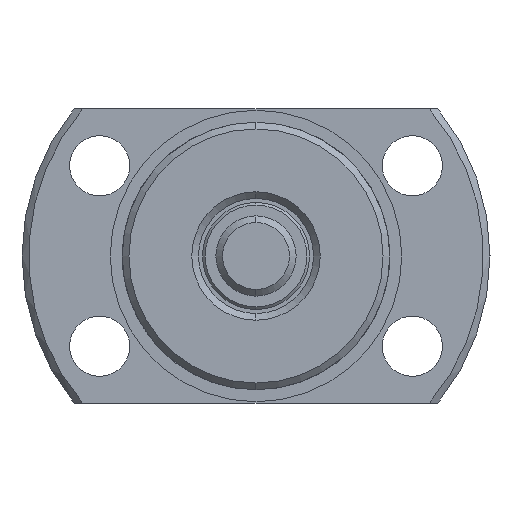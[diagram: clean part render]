
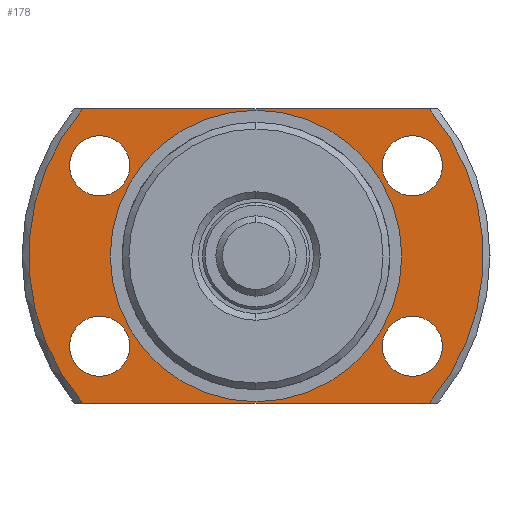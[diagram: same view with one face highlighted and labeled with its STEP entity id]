
A CAD part, left-side view. The second image highlights one B-rep face of the part: STEP entity #178.
In plain terms, the highlighted planar face has unit normal (-1, 0, 0).
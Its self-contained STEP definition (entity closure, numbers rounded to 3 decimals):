
#11 = CIRCLE ( 'NONE', #3561, 17. ) ;
#94 = DIRECTION ( 'NONE',  ( 0., 0., -1. ) ) ;
#95 = DIRECTION ( 'NONE',  ( 1., 0., 0. ) ) ;
#96 = CARTESIAN_POINT ( 'NONE',  ( -5., 0., 0. ) ) ;
#178 = ADVANCED_FACE ( 'NONE', ( #4141, #4142, #4154, #4152, #4139, #4143 ), #1214, .T. ) ;
#449 = EDGE_CURVE ( 'NONE', #2120, #2138, #1024, .T. ) ;
#450 = EDGE_CURVE ( 'NONE', #2110, #2111, #1023, .T. ) ;
#451 = EDGE_CURVE ( 'NONE', #2056, #2054, #1022, .T. ) ;
#452 = EDGE_CURVE ( 'NONE', #2062, #2061, #1021, .T. ) ;
#453 = EDGE_CURVE ( 'NONE', #2114, #2115, #1018, .T. ) ;
#454 = EDGE_CURVE ( 'NONE', #2106, #2107, #1020, .T. ) ;
#455 = EDGE_CURVE ( 'NONE', #2118, #2119, #1016, .T. ) ;
#458 = EDGE_CURVE ( 'NONE', #2056, #2061, #1014, .T. ) ;
#499 = AXIS2_PLACEMENT_3D ( 'NONE', #1212, #1217, #1211 ) ;
#593 = DIRECTION ( 'NONE',  ( 0., 0., 1. ) ) ;
#594 = DIRECTION ( 'NONE',  ( -1., 0., 0. ) ) ;
#595 = CARTESIAN_POINT ( 'NONE',  ( -5., 11.691, 6.75 ) ) ;
#603 = DIRECTION ( 'NONE',  ( 0., 0., 1. ) ) ;
#604 = DIRECTION ( 'NONE',  ( -1., 0., 0. ) ) ;
#605 = CARTESIAN_POINT ( 'NONE',  ( -5., -11.691, 6.75 ) ) ;
#613 = DIRECTION ( 'NONE',  ( 0., 0., 1. ) ) ;
#614 = DIRECTION ( 'NONE',  ( -1., 0., 0. ) ) ;
#615 = CARTESIAN_POINT ( 'NONE',  ( -5., -11.691, -6.75 ) ) ;
#879 = ORIENTED_EDGE ( 'NONE', *, *, #449, .F. ) ;
#880 = ORIENTED_EDGE ( 'NONE', *, *, #3676, .F. ) ;
#881 = ORIENTED_EDGE ( 'NONE', *, *, #450, .F. ) ;
#882 = ORIENTED_EDGE ( 'NONE', *, *, #3688, .F. ) ;
#883 = ORIENTED_EDGE ( 'NONE', *, *, #3764, .F. ) ;
#884 = ORIENTED_EDGE ( 'NONE', *, *, #451, .T. ) ;
#885 = ORIENTED_EDGE ( 'NONE', *, *, #458, .F. ) ;
#886 = ORIENTED_EDGE ( 'NONE', *, *, #452, .T. ) ;
#887 = ORIENTED_EDGE ( 'NONE', *, *, #453, .F. ) ;
#888 = ORIENTED_EDGE ( 'NONE', *, *, #3684, .F. ) ;
#889 = ORIENTED_EDGE ( 'NONE', *, *, #3692, .T. ) ;
#890 = ORIENTED_EDGE ( 'NONE', *, *, #454, .T. ) ;
#891 = ORIENTED_EDGE ( 'NONE', *, *, #455, .F. ) ;
#892 = ORIENTED_EDGE ( 'NONE', *, *, #3680, .F. ) ;
#1014 = CIRCLE ( 'NONE', #3486, 17. ) ;
#1016 = CIRCLE ( 'NONE', #3485, 2.25 ) ;
#1017 = VECTOR ( 'NONE', #2632, 1000. ) ;
#1018 = CIRCLE ( 'NONE', #3483, 2.25 ) ;
#1019 = VECTOR ( 'NONE', #2656, 1000. ) ;
#1020 = CIRCLE ( 'NONE', #3484, 10.9 ) ;
#1021 = LINE ( 'NONE', #2638, #1017 ) ;
#1022 = LINE ( 'NONE', #2637, #1019 ) ;
#1023 = CIRCLE ( 'NONE', #3482, 2.25 ) ;
#1024 = CIRCLE ( 'NONE', #3481, 2.25 ) ;
#1110 = CIRCLE ( 'NONE', #3529, 2.25 ) ;
#1116 = CIRCLE ( 'NONE', #3527, 2.25 ) ;
#1122 = CIRCLE ( 'NONE', #3525, 2.25 ) ;
#1128 = CIRCLE ( 'NONE', #3523, 2.25 ) ;
#1211 = DIRECTION ( 'NONE',  ( 0., 0., 1. ) ) ;
#1212 = CARTESIAN_POINT ( 'NONE',  ( -5., 17., 0. ) ) ;
#1214 = PLANE ( 'NONE',  #499 ) ;
#1217 = DIRECTION ( 'NONE',  ( -1., 0., 0. ) ) ;
#1469 = CIRCLE ( 'NONE', #3531, 10.9 ) ;
#1812 = CARTESIAN_POINT ( 'NONE',  ( -5., -11.691, -9. ) ) ;
#1838 = CARTESIAN_POINT ( 'NONE',  ( -5., -11.691, -4.5 ) ) ;
#1839 = CARTESIAN_POINT ( 'NONE',  ( -5., -11.691, 4.5 ) ) ;
#1840 = CARTESIAN_POINT ( 'NONE',  ( -5., -11.691, 9. ) ) ;
#1844 = CARTESIAN_POINT ( 'NONE',  ( -5., 11.691, 4.5 ) ) ;
#1845 = CARTESIAN_POINT ( 'NONE',  ( -5., 11.691, 9. ) ) ;
#1848 = CARTESIAN_POINT ( 'NONE',  ( -5., 11.691, -9. ) ) ;
#1849 = CARTESIAN_POINT ( 'NONE',  ( -5., 11.691, -4.5 ) ) ;
#1852 = CARTESIAN_POINT ( 'NONE',  ( -5., 0., 10.9 ) ) ;
#1853 = CARTESIAN_POINT ( 'NONE',  ( -5., 0., -10.9 ) ) ;
#1916 = CARTESIAN_POINT ( 'NONE',  ( -5., -12.961, 11. ) ) ;
#1917 = CARTESIAN_POINT ( 'NONE',  ( -5., 12.961, 11. ) ) ;
#1923 = CARTESIAN_POINT ( 'NONE',  ( -5., 12.961, -11. ) ) ;
#1925 = CARTESIAN_POINT ( 'NONE',  ( -5., -12.961, -11. ) ) ;
#2054 = VERTEX_POINT ( 'NONE', #1925 ) ;
#2056 = VERTEX_POINT ( 'NONE', #1923 ) ;
#2061 = VERTEX_POINT ( 'NONE', #1917 ) ;
#2062 = VERTEX_POINT ( 'NONE', #1916 ) ;
#2106 = VERTEX_POINT ( 'NONE', #1853 ) ;
#2107 = VERTEX_POINT ( 'NONE', #1852 ) ;
#2110 = VERTEX_POINT ( 'NONE', #1849 ) ;
#2111 = VERTEX_POINT ( 'NONE', #1848 ) ;
#2114 = VERTEX_POINT ( 'NONE', #1845 ) ;
#2115 = VERTEX_POINT ( 'NONE', #1844 ) ;
#2118 = VERTEX_POINT ( 'NONE', #1840 ) ;
#2119 = VERTEX_POINT ( 'NONE', #1839 ) ;
#2120 = VERTEX_POINT ( 'NONE', #1838 ) ;
#2138 = VERTEX_POINT ( 'NONE', #1812 ) ;
#2600 = DIRECTION ( 'NONE',  ( 0., 0., -1. ) ) ;
#2601 = DIRECTION ( 'NONE',  ( 1., 0., 0. ) ) ;
#2602 = CARTESIAN_POINT ( 'NONE',  ( -5., 0., 0. ) ) ;
#2613 = DIRECTION ( 'NONE',  ( 0., 0., 1. ) ) ;
#2614 = DIRECTION ( 'NONE',  ( -1., 0., 0. ) ) ;
#2616 = CARTESIAN_POINT ( 'NONE',  ( -5., -11.691, 6.75 ) ) ;
#2621 = DIRECTION ( 'NONE',  ( 0., 0., -1. ) ) ;
#2622 = DIRECTION ( 'NONE',  ( 1., 0., 0. ) ) ;
#2623 = CARTESIAN_POINT ( 'NONE',  ( -5., 0., 0. ) ) ;
#2626 = DIRECTION ( 'NONE',  ( 0., 0., 1. ) ) ;
#2627 = DIRECTION ( 'NONE',  ( -1., 0., 0. ) ) ;
#2629 = CARTESIAN_POINT ( 'NONE',  ( -5., 11.691, 6.75 ) ) ;
#2632 = DIRECTION ( 'NONE',  ( 0., 1., 0. ) ) ;
#2634 = DIRECTION ( 'NONE',  ( 0., 0., 1. ) ) ;
#2635 = DIRECTION ( 'NONE',  ( -1., 0., 0. ) ) ;
#2636 = CARTESIAN_POINT ( 'NONE',  ( -5., 11.691, -6.75 ) ) ;
#2637 = CARTESIAN_POINT ( 'NONE',  ( -5., 17., -11. ) ) ;
#2638 = CARTESIAN_POINT ( 'NONE',  ( -5., 17., 11. ) ) ;
#2639 = DIRECTION ( 'NONE',  ( 0., 0., 1. ) ) ;
#2640 = DIRECTION ( 'NONE',  ( -1., 0., 0. ) ) ;
#2641 = CARTESIAN_POINT ( 'NONE',  ( -5., -11.691, -6.75 ) ) ;
#2656 = DIRECTION ( 'NONE',  ( 0., -1., 0. ) ) ;
#3481 = AXIS2_PLACEMENT_3D ( 'NONE', #2641, #2640, #2639 ) ;
#3482 = AXIS2_PLACEMENT_3D ( 'NONE', #2636, #2635, #2634 ) ;
#3483 = AXIS2_PLACEMENT_3D ( 'NONE', #2629, #2627, #2626 ) ;
#3484 = AXIS2_PLACEMENT_3D ( 'NONE', #2623, #2622, #2621 ) ;
#3485 = AXIS2_PLACEMENT_3D ( 'NONE', #2616, #2614, #2613 ) ;
#3486 = AXIS2_PLACEMENT_3D ( 'NONE', #2602, #2601, #2600 ) ;
#3523 = AXIS2_PLACEMENT_3D ( 'NONE', #615, #614, #613 ) ;
#3525 = AXIS2_PLACEMENT_3D ( 'NONE', #605, #604, #603 ) ;
#3527 = AXIS2_PLACEMENT_3D ( 'NONE', #595, #594, #593 ) ;
#3529 = AXIS2_PLACEMENT_3D ( 'NONE', #3664, #3668, #3667 ) ;
#3531 = AXIS2_PLACEMENT_3D ( 'NONE', #3655, #3654, #3653 ) ;
#3561 = AXIS2_PLACEMENT_3D ( 'NONE', #96, #95, #94 ) ;
#3653 = DIRECTION ( 'NONE',  ( 0., 0., -1. ) ) ;
#3654 = DIRECTION ( 'NONE',  ( 1., 0., 0. ) ) ;
#3655 = CARTESIAN_POINT ( 'NONE',  ( -5., 0., 0. ) ) ;
#3664 = CARTESIAN_POINT ( 'NONE',  ( -5., 11.691, -6.75 ) ) ;
#3667 = DIRECTION ( 'NONE',  ( 0., 0., 1. ) ) ;
#3668 = DIRECTION ( 'NONE',  ( -1., 0., 0. ) ) ;
#3676 = EDGE_CURVE ( 'NONE', #2138, #2120, #1128, .T. ) ;
#3680 = EDGE_CURVE ( 'NONE', #2119, #2118, #1122, .T. ) ;
#3684 = EDGE_CURVE ( 'NONE', #2115, #2114, #1116, .T. ) ;
#3688 = EDGE_CURVE ( 'NONE', #2111, #2110, #1110, .T. ) ;
#3692 = EDGE_CURVE ( 'NONE', #2107, #2106, #1469, .T. ) ;
#3764 = EDGE_CURVE ( 'NONE', #2062, #2054, #11, .T. ) ;
#4139 = FACE_BOUND ( 'NONE', #4264, .T. ) ;
#4141 = FACE_BOUND ( 'NONE', #4271, .T. ) ;
#4142 = FACE_BOUND ( 'NONE', #4285, .T. ) ;
#4143 = FACE_BOUND ( 'NONE', #4260, .T. ) ;
#4152 = FACE_OUTER_BOUND ( 'NONE', #4261, .T. ) ;
#4154 = FACE_BOUND ( 'NONE', #4263, .T. ) ;
#4260 = EDGE_LOOP ( 'NONE', ( #880, #879 ) ) ;
#4261 = EDGE_LOOP ( 'NONE', ( #886, #885, #884, #883 ) ) ;
#4263 = EDGE_LOOP ( 'NONE', ( #888, #887 ) ) ;
#4264 = EDGE_LOOP ( 'NONE', ( #882, #881 ) ) ;
#4271 = EDGE_LOOP ( 'NONE', ( #892, #891 ) ) ;
#4285 = EDGE_LOOP ( 'NONE', ( #890, #889 ) ) ;
